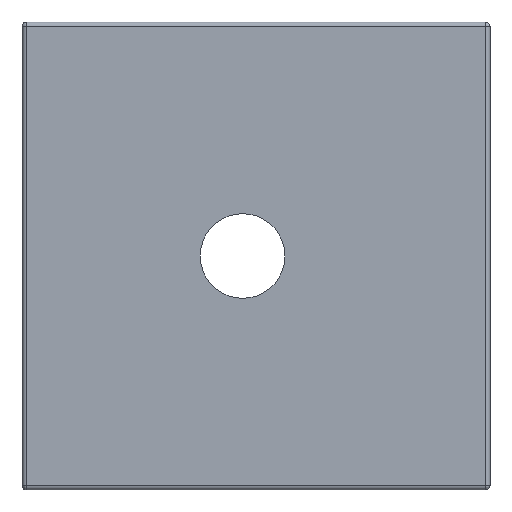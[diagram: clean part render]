
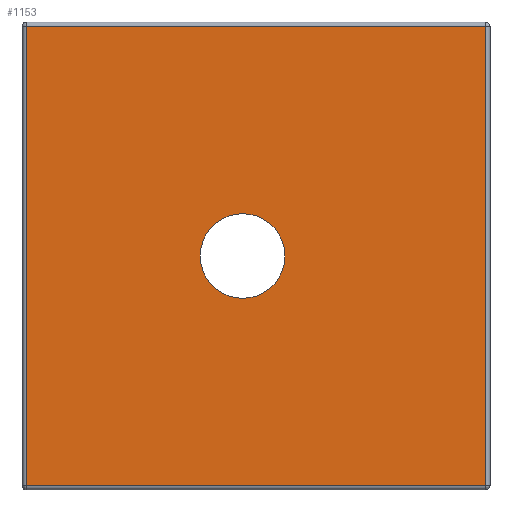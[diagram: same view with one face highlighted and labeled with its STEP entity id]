
A CAD part, left-side view. The second image highlights one B-rep face of the part: STEP entity #1153.
In plain terms, the highlighted planar face has unit normal (-1, 0, 0).
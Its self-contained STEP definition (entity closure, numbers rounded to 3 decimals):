
#98 = CARTESIAN_POINT ( 'NONE',  ( 2199.177, -660.494, -0.2 ) ) ;
#133 = CARTESIAN_POINT ( 'NONE',  ( 2199.177, -681.294, -20.8 ) ) ;
#168 = ORIENTED_EDGE ( 'NONE', *, *, #3575, .F. ) ;
#186 = VERTEX_POINT ( 'NONE', #2448 ) ;
#193 = DIRECTION ( 'NONE',  ( 0., 0., -1. ) ) ;
#288 = VERTEX_POINT ( 'NONE', #3355 ) ;
#401 = ORIENTED_EDGE ( 'NONE', *, *, #1874, .T. ) ;
#448 = AXIS2_PLACEMENT_3D ( 'NONE', #2606, #4633, #193 ) ;
#561 = VERTEX_POINT ( 'NONE', #775 ) ;
#603 = CARTESIAN_POINT ( 'NONE',  ( 2199.177, -670.194, -10.5 ) ) ;
#625 = AXIS2_PLACEMENT_3D ( 'NONE', #2495, #4133, #4115 ) ;
#775 = CARTESIAN_POINT ( 'NONE',  ( 2199.177, -681.094, -0.2 ) ) ;
#895 = VECTOR ( 'NONE', #4589, 1000. ) ;
#903 = EDGE_LOOP ( 'NONE', ( #401, #1090 ) ) ;
#963 = ORIENTED_EDGE ( 'NONE', *, *, #2561, .F. ) ;
#974 = EDGE_CURVE ( 'NONE', #288, #981, #4690, .T. ) ;
#981 = VERTEX_POINT ( 'NONE', #2557 ) ;
#1063 = VERTEX_POINT ( 'NONE', #2241 ) ;
#1090 = ORIENTED_EDGE ( 'NONE', *, *, #974, .T. ) ;
#1153 = ADVANCED_FACE ( 'NONE', ( #4925, #3056 ), #5008, .F. ) ;
#1262 = CIRCLE ( 'NONE', #625, 1.9 ) ;
#1329 = EDGE_CURVE ( 'NONE', #1063, #186, #5173, .T. ) ;
#1874 = EDGE_CURVE ( 'NONE', #981, #288, #1262, .T. ) ;
#1928 = EDGE_LOOP ( 'NONE', ( #2156, #2432, #168, #963 ) ) ;
#2101 = DIRECTION ( 'NONE',  ( 0., 1., 0. ) ) ;
#2156 = ORIENTED_EDGE ( 'NONE', *, *, #3590, .F. ) ;
#2196 = LINE ( 'NONE', #2275, #4843 ) ;
#2209 = CARTESIAN_POINT ( 'NONE',  ( 2199.177, -681.294, -0.2 ) ) ;
#2241 = CARTESIAN_POINT ( 'NONE',  ( 2199.177, -681.094, -20.8 ) ) ;
#2275 = CARTESIAN_POINT ( 'NONE',  ( 2199.177, -681.094, -21. ) ) ;
#2416 = VECTOR ( 'NONE', #2101, 1000. ) ;
#2432 = ORIENTED_EDGE ( 'NONE', *, *, #1329, .F. ) ;
#2448 = CARTESIAN_POINT ( 'NONE',  ( 2199.177, -660.494, -20.8 ) ) ;
#2495 = CARTESIAN_POINT ( 'NONE',  ( 2199.177, -670.194, -10.5 ) ) ;
#2557 = CARTESIAN_POINT ( 'NONE',  ( 2199.177, -670.194, -8.6 ) ) ;
#2561 = EDGE_CURVE ( 'NONE', #2688, #561, #4144, .T. ) ;
#2606 = CARTESIAN_POINT ( 'NONE',  ( 2199.177, -681.294, -21. ) ) ;
#2688 = VERTEX_POINT ( 'NONE', #98 ) ;
#3056 = FACE_OUTER_BOUND ( 'NONE', #1928, .T. ) ;
#3355 = CARTESIAN_POINT ( 'NONE',  ( 2199.177, -670.194, -12.4 ) ) ;
#3389 = AXIS2_PLACEMENT_3D ( 'NONE', #603, #3412, #4569 ) ;
#3412 = DIRECTION ( 'NONE',  ( 1., 0., 0. ) ) ;
#3575 = EDGE_CURVE ( 'NONE', #561, #1063, #2196, .T. ) ;
#3590 = EDGE_CURVE ( 'NONE', #186, #2688, #3775, .T. ) ;
#3775 = LINE ( 'NONE', #4289, #4592 ) ;
#3910 = DIRECTION ( 'NONE',  ( 0., 0., 1. ) ) ;
#4115 = DIRECTION ( 'NONE',  ( 0., 0., 1. ) ) ;
#4133 = DIRECTION ( 'NONE',  ( 1., 0., 0. ) ) ;
#4144 = LINE ( 'NONE', #2209, #895 ) ;
#4289 = CARTESIAN_POINT ( 'NONE',  ( 2199.177, -660.494, -21. ) ) ;
#4312 = DIRECTION ( 'NONE',  ( 0., 0., -1. ) ) ;
#4569 = DIRECTION ( 'NONE',  ( 0., 0., 1. ) ) ;
#4589 = DIRECTION ( 'NONE',  ( 0., -1., 0. ) ) ;
#4592 = VECTOR ( 'NONE', #3910, 1000. ) ;
#4633 = DIRECTION ( 'NONE',  ( 1., 0., 0. ) ) ;
#4690 = CIRCLE ( 'NONE', #3389, 1.9 ) ;
#4843 = VECTOR ( 'NONE', #4312, 1000. ) ;
#4925 = FACE_BOUND ( 'NONE', #903, .T. ) ;
#5008 = PLANE ( 'NONE',  #448 ) ;
#5173 = LINE ( 'NONE', #133, #2416 ) ;
